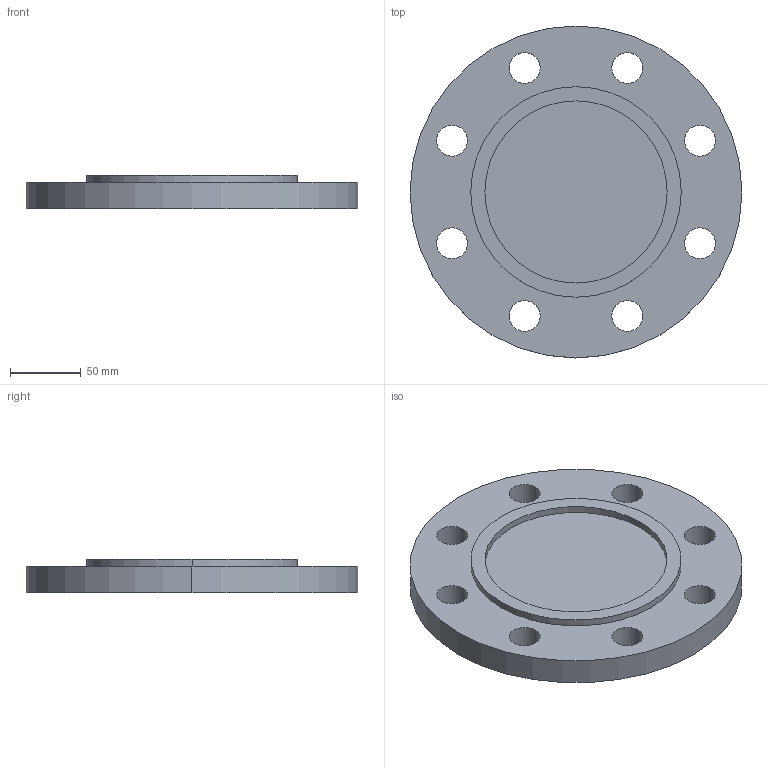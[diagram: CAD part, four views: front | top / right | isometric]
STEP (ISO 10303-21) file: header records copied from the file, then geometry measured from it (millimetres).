
FILE_DESCRIPTION (( 'STEP AP214' ), '1' );
FILE_NAME ('PN40 DN100 Type 05 - Type C Face.STEP', '2019-01-02T00:25:54', ( '' ), ( '' ), 'SwSTEP 2.0', 'SolidWorks 2019', '' );
FILE_SCHEMA (( 'AUTOMOTIVE_DESIGN' ));
Length unit declared in the file: millimetre
Products named in the file (1): PN40 DN100 Type 05 - Type C Face
Bounding box: 235 x 235 x 24 mm (x, y, z)
Volume: 788152.6 mm3; surface area: 109564.6 mm2
Topology: 1 solids, 1 shells, 26 faces, 66 edges, 44 vertices
Faces by surface type: cylinder 22, plane 4
Entity records: 880 total; most frequent: DIRECTION 164, CARTESIAN_POINT 137, ORIENTED_EDGE 132, AXIS2_PLACEMENT_3D 71, EDGE_CURVE 66, CIRCLE 44, EDGE_LOOP 44, VERTEX_POINT 44
